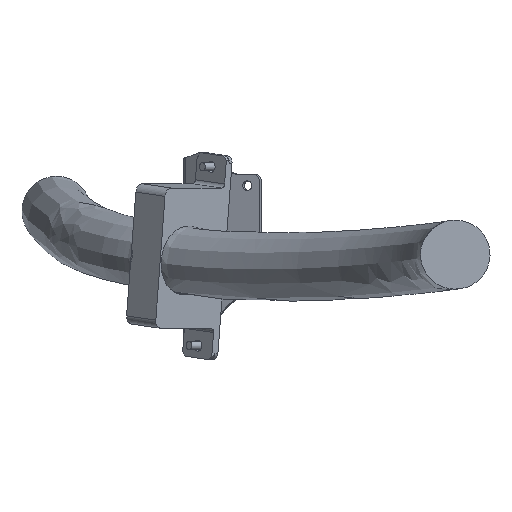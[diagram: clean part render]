
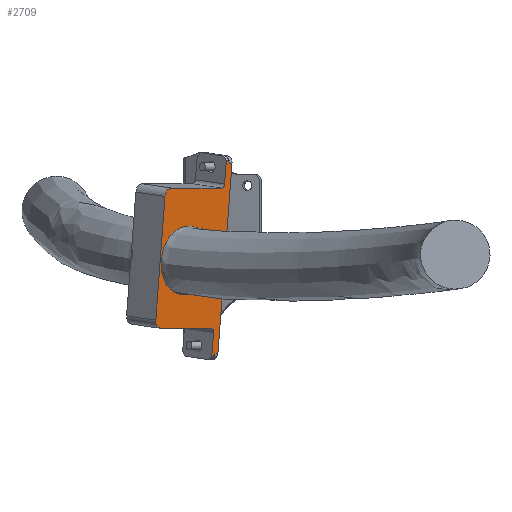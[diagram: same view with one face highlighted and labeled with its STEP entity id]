
A CAD part, top view. The second image highlights one B-rep face of the part: STEP entity #2709.
In plain terms, the highlighted planar face has unit normal (0.703, -0.104, 0.703).
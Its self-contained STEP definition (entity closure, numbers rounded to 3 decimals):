
#14 = CARTESIAN_POINT ( 'NONE',  ( 116.871, 49.153, 631.715 ) ) ;
#30 = LINE ( 'NONE', #2771, #3716 ) ;
#43 = VERTEX_POINT ( 'NONE', #1739 ) ;
#90 = AXIS2_PLACEMENT_3D ( 'NONE', #316, #3021, #2416 ) ;
#96 = CARTESIAN_POINT ( 'NONE',  ( 109.11, -55.272, 623.954 ) ) ;
#168 = ORIENTED_EDGE ( 'NONE', *, *, #1614, .T. ) ;
#208 = DIRECTION ( 'NONE',  ( 0.707, 0., -0.707 ) ) ;
#216 = EDGE_CURVE ( 'NONE', #43, #765, #1518, .T. ) ;
#316 = CARTESIAN_POINT ( 'NONE',  ( 73.713, -46.321, 660.682 ) ) ;
#389 = CARTESIAN_POINT ( 'NONE',  ( 111.675, -49.305, 622.276 ) ) ;
#440 = ORIENTED_EDGE ( 'NONE', *, *, #3807, .T. ) ;
#445 = DIRECTION ( 'NONE',  ( 0.707, 0., -0.707 ) ) ;
#454 = EDGE_CURVE ( 'NONE', #1302, #607, #675, .T. ) ;
#477 = EDGE_CURVE ( 'NONE', #894, #3105, #3593, .T. ) ;
#485 = DIRECTION ( 'NONE',  ( -0.074, -0.995, -0.074 ) ) ;
#506 = PLANE ( 'NONE',  #1417 ) ;
#521 = ORIENTED_EDGE ( 'NONE', *, *, #658, .T. ) ;
#552 = DIRECTION ( 'NONE',  ( -0.707, 0., 0.707 ) ) ;
#562 = EDGE_CURVE ( 'NONE', #1424, #894, #3533, .T. ) ;
#567 = ORIENTED_EDGE ( 'NONE', *, *, #684, .T. ) ;
#573 = DIRECTION ( 'NONE',  ( -0.074, -0.995, -0.074 ) ) ;
#607 = VERTEX_POINT ( 'NONE', #2456 ) ;
#625 = VECTOR ( 'NONE', #3083, 1000. ) ;
#626 = CARTESIAN_POINT ( 'NONE',  ( 124.566, 67.054, 626.682 ) ) ;
#645 = VECTOR ( 'NONE', #3483, 1000. ) ;
#657 = EDGE_CURVE ( 'NONE', #1794, #1794, #671, .T. ) ;
#658 = EDGE_CURVE ( 'NONE', #659, #1624, #1572, .T. ) ;
#659 = VERTEX_POINT ( 'NONE', #892 ) ;
#671 = CIRCLE ( 'NONE', #2909, 25. ) ;
#675 = LINE ( 'NONE', #3493, #3838 ) ;
#680 = ORIENTED_EDGE ( 'NONE', *, *, #3214, .T. ) ;
#684 = EDGE_CURVE ( 'NONE', #3444, #1424, #998, .T. ) ;
#765 = VERTEX_POINT ( 'NONE', #2151 ) ;
#772 = CARTESIAN_POINT ( 'NONE',  ( 71.148, -52.289, 662.36 ) ) ;
#892 = CARTESIAN_POINT ( 'NONE',  ( 124.566, 67.054, 626.682 ) ) ;
#894 = VERTEX_POINT ( 'NONE', #1035 ) ;
#928 = CIRCLE ( 'NONE', #90, 6. ) ;
#961 = DIRECTION ( 'NONE',  ( -0.707, 0., 0.707 ) ) ;
#998 = CIRCLE ( 'NONE', #1395, 3. ) ;
#1004 = LINE ( 'NONE', #389, #2756 ) ;
#1035 = CARTESIAN_POINT ( 'NONE',  ( 80.809, 49.153, 667.778 ) ) ;
#1067 = VERTEX_POINT ( 'NONE', #1938 ) ;
#1142 = CARTESIAN_POINT ( 'NONE',  ( 107.854, -72.179, 622.698 ) ) ;
#1143 = DIRECTION ( 'NONE',  ( -0.703, 0.105, -0.703 ) ) ;
#1186 = VERTEX_POINT ( 'NONE', #1376 ) ;
#1207 = VERTEX_POINT ( 'NONE', #3464 ) ;
#1279 = CARTESIAN_POINT ( 'NONE',  ( 113.797, -49.305, 620.155 ) ) ;
#1302 = VERTEX_POINT ( 'NONE', #3368 ) ;
#1316 = EDGE_LOOP ( 'NONE', ( #2532, #1569, #1553, #1874, #3048, #3130, #521, #2280, #1403, #680, #567, #1374, #3107, #168, #1729, #440 ) ) ;
#1321 = VECTOR ( 'NONE', #2219, 1000. ) ;
#1336 = DIRECTION ( 'NONE',  ( -0.074, -0.995, -0.074 ) ) ;
#1374 = ORIENTED_EDGE ( 'NONE', *, *, #562, .T. ) ;
#1376 = CARTESIAN_POINT ( 'NONE',  ( 73.27, -52.289, 660.238 ) ) ;
#1395 = AXIS2_PLACEMENT_3D ( 'NONE', #2704, #1514, #1831 ) ;
#1403 = ORIENTED_EDGE ( 'NONE', *, *, #216, .T. ) ;
#1417 = AXIS2_PLACEMENT_3D ( 'NONE', #2066, #1143, #445 ) ;
#1424 = VERTEX_POINT ( 'NONE', #14 ) ;
#1468 = CARTESIAN_POINT ( 'NONE',  ( 80.365, 43.186, 667.334 ) ) ;
#1511 = ORIENTED_EDGE ( 'NONE', *, *, #657, .T. ) ;
#1514 = DIRECTION ( 'NONE',  ( -0.703, 0.105, -0.703 ) ) ;
#1518 = LINE ( 'NONE', #2134, #3898 ) ;
#1553 = ORIENTED_EDGE ( 'NONE', *, *, #3882, .T. ) ;
#1569 = ORIENTED_EDGE ( 'NONE', *, *, #3741, .T. ) ;
#1572 = LINE ( 'NONE', #626, #3901 ) ;
#1586 = EDGE_CURVE ( 'NONE', #659, #1302, #1834, .T. ) ;
#1596 = VECTOR ( 'NONE', #2667, 1000. ) ;
#1614 = EDGE_CURVE ( 'NONE', #3105, #1067, #30, .T. ) ;
#1624 = VERTEX_POINT ( 'NONE', #3324 ) ;
#1625 = CARTESIAN_POINT ( 'NONE',  ( 122.814, 72.027, 629.173 ) ) ;
#1675 = AXIS2_PLACEMENT_3D ( 'NONE', #96, #2796, #1336 ) ;
#1713 = DIRECTION ( 'NONE',  ( -0.707, 0., 0.707 ) ) ;
#1729 = ORIENTED_EDGE ( 'NONE', *, *, #2118, .T. ) ;
#1736 = FACE_BOUND ( 'NONE', #2623, .T. ) ;
#1739 = CARTESIAN_POINT ( 'NONE',  ( 122.592, 69.043, 628.951 ) ) ;
#1794 = VERTEX_POINT ( 'NONE', #2990 ) ;
#1831 = DIRECTION ( 'NONE',  ( -0.074, -0.995, -0.074 ) ) ;
#1834 = LINE ( 'NONE', #2749, #2223 ) ;
#1874 = ORIENTED_EDGE ( 'NONE', *, *, #2037, .F. ) ;
#1933 = DIRECTION ( 'NONE',  ( -0.074, -0.995, -0.074 ) ) ;
#1938 = CARTESIAN_POINT ( 'NONE',  ( 69.471, -46.321, 664.925 ) ) ;
#1939 = LINE ( 'NONE', #3175, #645 ) ;
#1960 = CARTESIAN_POINT ( 'NONE',  ( 109.975, -72.179, 620.576 ) ) ;
#1967 = AXIS2_PLACEMENT_3D ( 'NONE', #1468, #3847, #485 ) ;
#2008 = DIRECTION ( 'NONE',  ( 0.707, 0., -0.707 ) ) ;
#2037 = EDGE_CURVE ( 'NONE', #607, #1207, #2122, .T. ) ;
#2045 = LINE ( 'NONE', #1142, #3390 ) ;
#2066 = CARTESIAN_POINT ( 'NONE',  ( 114.366, -70.19, 616.482 ) ) ;
#2118 = EDGE_CURVE ( 'NONE', #1067, #1186, #928, .T. ) ;
#2122 = LINE ( 'NONE', #1279, #625 ) ;
#2129 = CARTESIAN_POINT ( 'NONE',  ( 91.067, -3.083, 649.755 ) ) ;
#2134 = CARTESIAN_POINT ( 'NONE',  ( 120.471, 69.043, 631.072 ) ) ;
#2151 = CARTESIAN_POINT ( 'NONE',  ( 120.471, 69.043, 631.072 ) ) ;
#2195 = EDGE_CURVE ( 'NONE', #43, #1624, #3132, .T. ) ;
#2219 = DIRECTION ( 'NONE',  ( -0.074, -0.995, -0.074 ) ) ;
#2223 = VECTOR ( 'NONE', #3886, 1000. ) ;
#2280 = ORIENTED_EDGE ( 'NONE', *, *, #2195, .F. ) ;
#2303 = CIRCLE ( 'NONE', #1675, 3. ) ;
#2309 = FACE_OUTER_BOUND ( 'NONE', #1316, .T. ) ;
#2416 = DIRECTION ( 'NONE',  ( -0.074, -0.995, -0.074 ) ) ;
#2427 = CARTESIAN_POINT ( 'NONE',  ( 109.332, -52.289, 624.176 ) ) ;
#2456 = CARTESIAN_POINT ( 'NONE',  ( 112.244, -70.19, 618.603 ) ) ;
#2475 = DIRECTION ( 'NONE',  ( -0.35, -0.912, 0.214 ) ) ;
#2532 = ORIENTED_EDGE ( 'NONE', *, *, #2594, .T. ) ;
#2594 = EDGE_CURVE ( 'NONE', #3090, #2607, #2303, .T. ) ;
#2607 = VERTEX_POINT ( 'NONE', #3714 ) ;
#2623 = EDGE_LOOP ( 'NONE', ( #1511 ) ) ;
#2642 = CARTESIAN_POINT ( 'NONE',  ( 76.123, 43.186, 671.577 ) ) ;
#2667 = DIRECTION ( 'NONE',  ( -0.707, 0., 0.707 ) ) ;
#2704 = CARTESIAN_POINT ( 'NONE',  ( 117.093, 52.136, 631.937 ) ) ;
#2709 = ADVANCED_FACE ( 'NONE', ( #2309, #1736 ), #506, .F. ) ;
#2749 = CARTESIAN_POINT ( 'NONE',  ( 114.366, -70.19, 616.482 ) ) ;
#2756 = VECTOR ( 'NONE', #1933, 1000. ) ;
#2767 = DIRECTION ( 'NONE',  ( -0.703, 0.105, -0.703 ) ) ;
#2771 = CARTESIAN_POINT ( 'NONE',  ( 76.344, 46.169, 671.799 ) ) ;
#2796 = DIRECTION ( 'NONE',  ( -0.703, 0.105, -0.703 ) ) ;
#2889 = VERTEX_POINT ( 'NONE', #1960 ) ;
#2894 = CARTESIAN_POINT ( 'NONE',  ( 121.114, 49.153, 627.473 ) ) ;
#2909 = AXIS2_PLACEMENT_3D ( 'NONE', #2129, #2767, #2475 ) ;
#2951 = LINE ( 'NONE', #772, #3571 ) ;
#2990 = CARTESIAN_POINT ( 'NONE',  ( 82.329, -25.888, 655.104 ) ) ;
#3021 = DIRECTION ( 'NONE',  ( 0.703, -0.105, 0.703 ) ) ;
#3048 = ORIENTED_EDGE ( 'NONE', *, *, #454, .F. ) ;
#3083 = DIRECTION ( 'NONE',  ( -0.074, -0.995, -0.074 ) ) ;
#3090 = VERTEX_POINT ( 'NONE', #2427 ) ;
#3105 = VERTEX_POINT ( 'NONE', #2642 ) ;
#3107 = ORIENTED_EDGE ( 'NONE', *, *, #477, .T. ) ;
#3130 = ORIENTED_EDGE ( 'NONE', *, *, #1586, .F. ) ;
#3132 = LINE ( 'NONE', #1625, #1321 ) ;
#3175 = CARTESIAN_POINT ( 'NONE',  ( 120.693, 72.027, 631.294 ) ) ;
#3214 = EDGE_CURVE ( 'NONE', #765, #3444, #1939, .T. ) ;
#3324 = CARTESIAN_POINT ( 'NONE',  ( 122.444, 67.054, 628.803 ) ) ;
#3368 = CARTESIAN_POINT ( 'NONE',  ( 114.366, -70.19, 616.482 ) ) ;
#3390 = VECTOR ( 'NONE', #2008, 1000. ) ;
#3444 = VERTEX_POINT ( 'NONE', #3581 ) ;
#3464 = CARTESIAN_POINT ( 'NONE',  ( 112.097, -72.179, 618.455 ) ) ;
#3483 = DIRECTION ( 'NONE',  ( -0.074, -0.995, -0.074 ) ) ;
#3493 = CARTESIAN_POINT ( 'NONE',  ( 114.366, -70.19, 616.482 ) ) ;
#3533 = LINE ( 'NONE', #2894, #1596 ) ;
#3571 = VECTOR ( 'NONE', #208, 1000. ) ;
#3581 = CARTESIAN_POINT ( 'NONE',  ( 119.214, 52.136, 629.816 ) ) ;
#3593 = CIRCLE ( 'NONE', #1967, 6. ) ;
#3714 = CARTESIAN_POINT ( 'NONE',  ( 111.232, -55.272, 621.833 ) ) ;
#3716 = VECTOR ( 'NONE', #573, 1000. ) ;
#3741 = EDGE_CURVE ( 'NONE', #2607, #2889, #1004, .T. ) ;
#3807 = EDGE_CURVE ( 'NONE', #1186, #3090, #2951, .T. ) ;
#3838 = VECTOR ( 'NONE', #1713, 1000. ) ;
#3847 = DIRECTION ( 'NONE',  ( 0.703, -0.105, 0.703 ) ) ;
#3882 = EDGE_CURVE ( 'NONE', #2889, #1207, #2045, .T. ) ;
#3886 = DIRECTION ( 'NONE',  ( -0.074, -0.995, -0.074 ) ) ;
#3898 = VECTOR ( 'NONE', #961, 1000. ) ;
#3901 = VECTOR ( 'NONE', #552, 1000. ) ;
